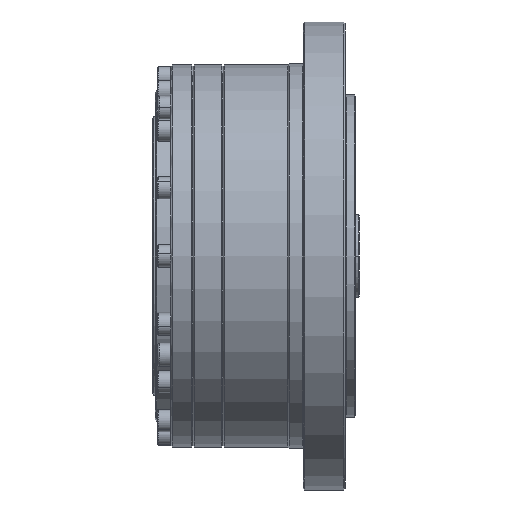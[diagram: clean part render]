
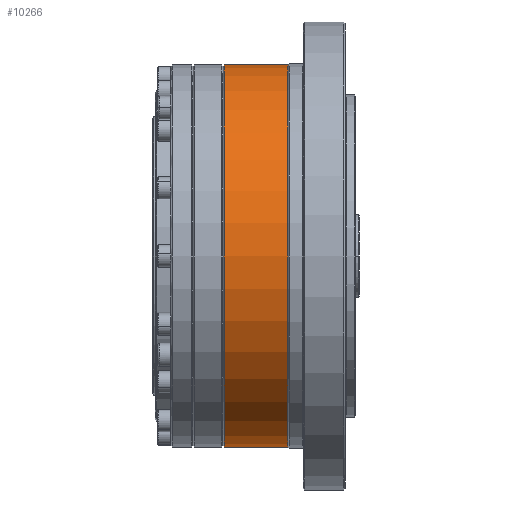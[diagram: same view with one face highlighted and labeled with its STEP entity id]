
A CAD part, front view. The second image highlights one B-rep face of the part: STEP entity #10266.
In plain terms, the highlighted cylindrical face has radius 73.5 mm (diameter 147 mm), a partial arc.
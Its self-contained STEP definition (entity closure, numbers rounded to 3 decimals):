
#310 = AXIS2_PLACEMENT_3D ( 'NONE', #24584, #7043, #27464 ) ;
#466 = CYLINDRICAL_SURFACE ( 'NONE', #16931, 73.5 ) ;
#1725 = EDGE_LOOP ( 'NONE', ( #2559, #10516, #4438, #14157 ) ) ;
#2181 = VERTEX_POINT ( 'NONE', #31568 ) ;
#2334 = DIRECTION ( 'NONE',  ( 1., 0., 0. ) ) ;
#2354 = VECTOR ( 'NONE', #12000, 1000. ) ;
#2559 = ORIENTED_EDGE ( 'NONE', *, *, #6797, .F. ) ;
#2650 = CARTESIAN_POINT ( 'NONE',  ( 25., 0., 73.5 ) ) ;
#2995 = CARTESIAN_POINT ( 'NONE',  ( 0.5, 0., 73.5 ) ) ;
#3047 = CARTESIAN_POINT ( 'NONE',  ( 57.5, 0., -73.5 ) ) ;
#3607 = AXIS2_PLACEMENT_3D ( 'NONE', #20000, #2334, #22917 ) ;
#4438 = ORIENTED_EDGE ( 'NONE', *, *, #7990, .T. ) ;
#5728 = VECTOR ( 'NONE', #17932, 1000. ) ;
#6582 = CIRCLE ( 'NONE', #3607, 73.5 ) ;
#6654 = LINE ( 'NONE', #17942, #5728 ) ;
#6797 = EDGE_CURVE ( 'NONE', #10390, #18823, #6654, .T. ) ;
#7006 = CARTESIAN_POINT ( 'NONE',  ( 25., 0., -73.5 ) ) ;
#7043 = DIRECTION ( 'NONE',  ( 1., 0., 0. ) ) ;
#7990 = EDGE_CURVE ( 'NONE', #2181, #33104, #10292, .T. ) ;
#10266 = ADVANCED_FACE ( 'NONE', ( #16207 ), #466, .T. ) ;
#10292 = LINE ( 'NONE', #3047, #2354 ) ;
#10390 = VERTEX_POINT ( 'NONE', #2995 ) ;
#10516 = ORIENTED_EDGE ( 'NONE', *, *, #17669, .T. ) ;
#10842 = DIRECTION ( 'NONE',  ( 1., 0., 0. ) ) ;
#12000 = DIRECTION ( 'NONE',  ( 1., 0., 0. ) ) ;
#13994 = CIRCLE ( 'NONE', #310, 73.5 ) ;
#14157 = ORIENTED_EDGE ( 'NONE', *, *, #17460, .F. ) ;
#16207 = FACE_OUTER_BOUND ( 'NONE', #1725, .T. ) ;
#16656 = DIRECTION ( 'NONE',  ( 0., 0., -1. ) ) ;
#16931 = AXIS2_PLACEMENT_3D ( 'NONE', #33932, #10842, #16656 ) ;
#17460 = EDGE_CURVE ( 'NONE', #18823, #33104, #13994, .T. ) ;
#17669 = EDGE_CURVE ( 'NONE', #10390, #2181, #6582, .T. ) ;
#17932 = DIRECTION ( 'NONE',  ( 1., 0., 0. ) ) ;
#17942 = CARTESIAN_POINT ( 'NONE',  ( 57.5, 0., 73.5 ) ) ;
#18823 = VERTEX_POINT ( 'NONE', #2650 ) ;
#20000 = CARTESIAN_POINT ( 'NONE',  ( 0.5, 0., 0. ) ) ;
#22917 = DIRECTION ( 'NONE',  ( 0., 0., -1. ) ) ;
#24584 = CARTESIAN_POINT ( 'NONE',  ( 25., 0., 0. ) ) ;
#27464 = DIRECTION ( 'NONE',  ( 0., 0., -1. ) ) ;
#31568 = CARTESIAN_POINT ( 'NONE',  ( 0.5, 0., -73.5 ) ) ;
#33104 = VERTEX_POINT ( 'NONE', #7006 ) ;
#33932 = CARTESIAN_POINT ( 'NONE',  ( 57.5, 0., 0. ) ) ;
